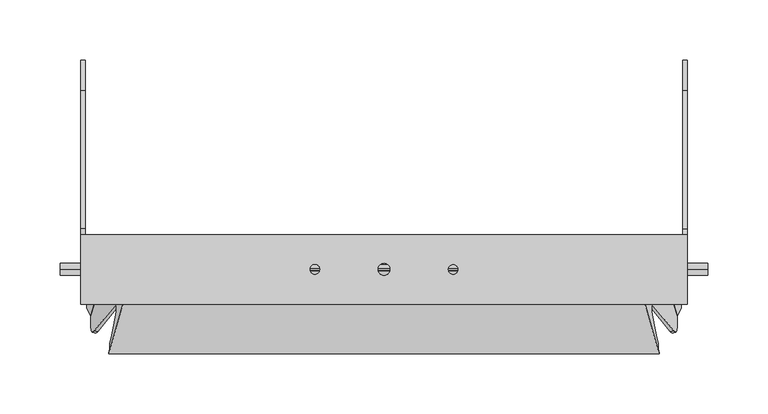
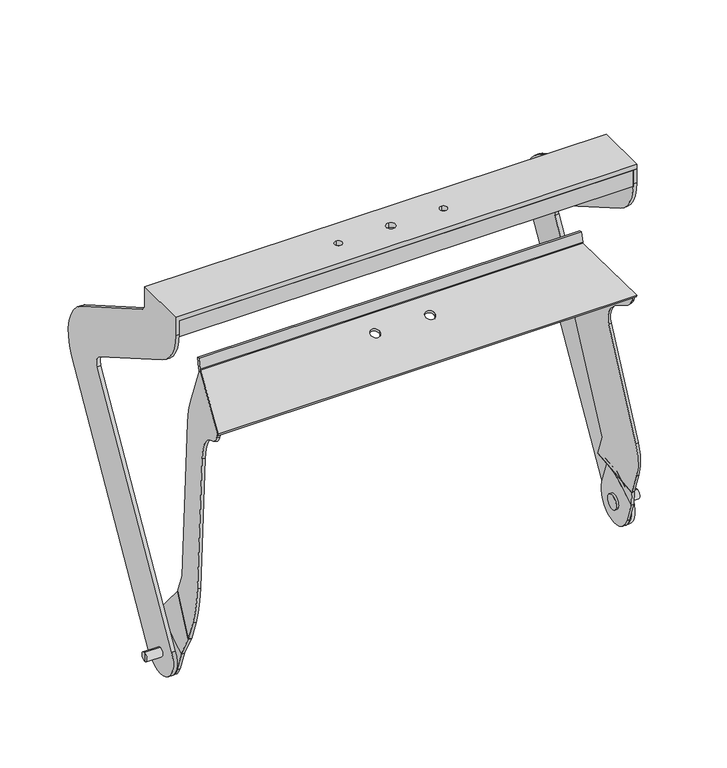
"""IFC4 building model written with IfcOpenShell, lengths in millimetres: proxy geometry, d&b M-Series M4 Flying Bracket : M4 Flying Bracket."""

from ifc_helpers import new_model, si_unit, point, frame, frame_2d, origin, place, context, project, spatial, polyline, circle_curve, trimmed, segment, composite_curve, outline, extrude, source, transform, mapped, element, save
from ifc_brep_helpers import plane_surface, cylinder_surface, revolved_surface, spline_surface, advanced_brep


def communication_devices_83826e61(model_context):
    return source(origin(), model_context, "Body", "SolidModel", [
        advanced_brep(
        [(-244.5052794, 11.9129866, 410.3598742), (-244.504496, -32.1564569, 385.2580032), (-247.4984362, -32.0897914, 385.1409638), (-247.4992196, 11.9796521, 410.2428348), (-228.0639078, 3.1454288, 429.4718054), (-230.9616853, 3.8750599, 429.7373693), (-243.9026376, -38.4932397, 404.9344067), (-241.0048601, -39.2228708, 404.6688427)],
        [
            (0, 1),
            (1, 2),
            (2, 3),
            (3, 0),
            (4, 5),
            (5, 6),
            (6, 7),
            (7, 4),
            (4, 0),
            (3, 5),
            (2, 6),
            (1, 7),
        ],
        [
            plane_surface(frame((-246.0018578, -10.0884024, 397.750419), z_axis=(0.0449434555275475, 0.4944399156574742, -0.8680491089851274), x_axis=(0.9989895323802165, -0.022244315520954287, 0.0390525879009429))),
            plane_surface(frame((-235.9832727, -17.6739055, 417.203106), z_axis=(-0.0449434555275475, -0.4944399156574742, 0.8680491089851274), x_axis=(0.9989895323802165, -0.022244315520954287, 0.0390525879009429))),
            spline_surface(1, 1, [[(-230.9616853, 3.8750599, 429.7373693), (-247.4992196, 11.9796521, 410.2428348)], [(-228.0639078, 3.1454288, 429.4718054), (-244.5052794, 11.9129866, 410.3598742)]], [2, 2], [2, 2], [0.0, 1.0], [0.0, 1.0]),
            spline_surface(1, 1, [[(-243.9026376, -38.4932397, 404.9344067), (-247.4984362, -32.0897914, 385.1409638)], [(-230.9616853, 3.8750599, 429.7373693), (-247.4992196, 11.9796521, 410.2428348)]], [2, 2], [2, 2], [0.0, 1.0], [0.0, 1.0]),
            spline_surface(1, 1, [[(-241.0048601, -39.2228708, 404.6688427), (-244.504496, -32.1564569, 385.2580032)], [(-243.9026376, -38.4932397, 404.9344067), (-247.4984362, -32.0897914, 385.1409638)]], [2, 2], [2, 2], [0.0, 1.0], [0.0, 1.0]),
            spline_surface(1, 1, [[(-228.0639078, 3.1454288, 429.4718054), (-244.5052794, 11.9129866, 410.3598742)], [(-241.0048601, -39.2228708, 404.6688427), (-244.504496, -32.1564569, 385.2580032)]], [2, 2], [2, 2], [0.0, 1.0], [0.0, 1.0]),
        ],
        [
            (0, [[1, 2, 3, 4]]),
            (1, [[5, 6, 7, 8]]),
            (2, [[-5, 9, -4, 10]]),
            (3, [[-6, -10, -3, 11]]),
            (4, [[-7, -11, -2, 12]]),
            (5, [[-8, -12, -1, -9]]),
        ],
    ),
        extrude(outline(composite_curve([segment(polyline([(104.5689878, 0.0), (180.1971911, 0.0), (180.1971911, -6.0833657)]), True, "CONTINUOUS"), segment(trimmed(circle_curve(frame_2d((162.814116, -6.0833656)), 17.383075), [point((180.1971911, -6.0833657))], [point((175.3152275, -18.1620042))], False, "CARTESIAN"), True, "CONTINUOUS"), segment(polyline([(175.3152275, -18.1620042), (167.0292158, -26.7378346)]), True, "CONTINUOUS"), segment(trimmed(circle_curve(frame_2d((188.6038419, -47.5833499)), 30.0), [point((167.0292158, -26.7378346))], [point((162.6230798, -62.5833499))], True, "CARTESIAN"), True, "CONTINUOUS"), segment(polyline([(162.6230798, -62.5833499), (229.5617624, -178.5245491)]), True, "CONTINUOUS"), segment(trimmed(circle_curve(frame_2d((160.2797301, -218.5245492)), 80.0), [point((229.5617624, -178.5245491))], [point((240.2797301, -218.5245492))], False, "CARTESIAN"), True, "CONTINUOUS"), segment(polyline([(240.2797301, -218.5245492), (240.2797302, -244.0319149), (190.2797301, -235.2155658), (190.2797301, -210.4860734), (111.2677176, -73.6332534)]), True, "CONTINUOUS"), segment(trimmed(circle_curve(frame_2d((154.5689878, -48.6332534)), 50.0), [point((111.2677176, -73.6332534))], [point((104.5689878, -48.6332534))], False, "CARTESIAN"), True, "CONTINUOUS"), segment(polyline([(104.5689878, -48.6332534), (104.5689878, 0.0)]), True, "CONTINUOUS")], self_intersect=False)), frame((-178.8158898, 95.4088114, 713.3641072), z_axis=(-0.9659258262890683, 0.2432103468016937, 0.08852132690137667), x_axis=(-0.25881904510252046, -0.907673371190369, -0.3303660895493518)), (0.0, 0.0, 1.0), 3.0),
        extrude(outline(composite_curve([segment(trimmed(circle_curve(frame_2d((0.0, -8.2)), 8.2), [point((0.0, -16.4))], [point((0.0, 0.0))], False, "CARTESIAN"), True, "CONTINUOUS"), segment(trimmed(circle_curve(frame_2d((0.0, -8.2)), 8.2), [point((0.0, 0.0))], [point((0.0, -16.4))], False, "CARTESIAN"), True, "CONTINUOUS")], self_intersect=False)), frame((-244.5053424, -7.7046987, 367.1919322), z_axis=(0.9999999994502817, -7.2124909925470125e-06, 3.236381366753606e-05), x_axis=(-3.287885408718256e-05, -0.34202014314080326, 0.9396926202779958)), (0.0, 0.0, 1.0), 2.4488042),
        extrude(outline(composite_curve([segment(polyline([(-23.5008597, 361.4729723), (-32.1604625, 385.2650355), (11.9175993, 410.3517759), (23.4837713, 378.5739795)]), True, "CONTINUOUS"), segment(trimmed(circle_curve(frame_2d((-0.0085442, 370.0234759)), 25.0), [point((23.4837713, 378.5739795))], [point((-23.5008597, 361.4729723))], False, "CARTESIAN"), True, "CONTINUOUS")], self_intersect=False)), frame((-247.5048601, 0.0, 0.0), z_axis=(1.0, 0.0, 0.0), x_axis=(0.0, 1.0, 0.0)), (0.0, 0.0, 1.0), 3.0),
        advanced_brep(
        [(244.5052794, 11.9129866, 410.3598742), (247.4992196, 11.9796521, 410.2428348), (247.4984362, -32.0897914, 385.1409638), (244.504496, -32.1564569, 385.2580032), (228.0639078, 3.1454288, 429.4718054), (241.0048601, -39.2228708, 404.6688427), (243.9026376, -38.4932397, 404.9344067), (230.9616853, 3.8750599, 429.7373693)],
        [
            (0, 1),
            (1, 2),
            (2, 3),
            (3, 0),
            (4, 5),
            (5, 6),
            (6, 7),
            (7, 4),
            (7, 1),
            (0, 4),
            (6, 2),
            (5, 3),
        ],
        [
            plane_surface(frame((246.0018578, -10.0884024, 397.750419), z_axis=(-0.04494345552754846, 0.49443991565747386, -0.8680491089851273), x_axis=(-1.544624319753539e-05, -0.8689274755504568, -0.49493943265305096))),
            plane_surface(frame((235.9832727, -17.6739055, 417.203106), z_axis=(0.04494345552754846, -0.49443991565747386, 0.8680491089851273), x_axis=(-1.544624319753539e-05, -0.8689274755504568, -0.49493943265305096))),
            spline_surface(1, 1, [[(228.0639078, 3.1454288, 429.4718054), (244.5052794, 11.9129866, 410.3598742)], [(230.9616853, 3.8750599, 429.7373693), (247.4992196, 11.9796521, 410.2428348)]], [2, 2], [2, 2], [0.0, 1.0], [0.0, 1.0]),
            spline_surface(1, 1, [[(230.9616853, 3.8750599, 429.7373693), (247.4992196, 11.9796521, 410.2428348)], [(243.9026376, -38.4932397, 404.9344067), (247.4984362, -32.0897914, 385.1409638)]], [2, 2], [2, 2], [0.0, 1.0], [0.0, 1.0]),
            spline_surface(1, 1, [[(243.9026376, -38.4932397, 404.9344067), (247.4984362, -32.0897914, 385.1409638)], [(241.0048601, -39.2228708, 404.6688427), (244.504496, -32.1564569, 385.2580032)]], [2, 2], [2, 2], [0.0, 1.0], [0.0, 1.0]),
            spline_surface(1, 1, [[(241.0048601, -39.2228708, 404.6688427), (244.504496, -32.1564569, 385.2580032)], [(228.0639078, 3.1454288, 429.4718054), (244.5052794, 11.9129866, 410.3598742)]], [2, 2], [2, 2], [0.0, 1.0], [0.0, 1.0]),
        ],
        [
            (0, [[1, 2, 3, 4]]),
            (1, [[5, 6, 7, 8]]),
            (2, [[-8, 9, -1, 10]]),
            (3, [[-7, 11, -2, -9]]),
            (4, [[-6, 12, -3, -11]]),
            (5, [[-5, -10, -4, -12]]),
        ],
    ),
        extrude(outline(composite_curve([segment(polyline([(-48.6332534, 0.0), (0.0, 0.0)]), True, "CONTINUOUS"), segment(trimmed(circle_curve(frame_2d((0.0, -50.0)), 50.0), [point((0.0, 0.0))], [point((25.0, -6.6987298))], False, "CARTESIAN"), True, "CONTINUOUS"), segment(polyline([(25.0, -6.6987298), (161.85282, -85.7107423), (186.5823124, -85.7107423), (195.3986615, -135.7107423), (169.8912959, -135.7107423)]), True, "CONTINUOUS"), segment(trimmed(circle_curve(frame_2d((169.8912958, -55.7107423)), 80.0), [point((169.8912959, -135.7107423))], [point((129.8912958, -124.9927746))], False, "CARTESIAN"), True, "CONTINUOUS"), segment(polyline([(129.8912958, -124.9927746), (13.9500965, -58.054092)]), True, "CONTINUOUS"), segment(trimmed(circle_curve(frame_2d((-1.0499035, -84.0348541)), 30.0), [point((13.9500965, -58.054092))], [point((-21.8954188, -62.460228))], True, "CARTESIAN"), True, "CONTINUOUS"), segment(polyline([(-21.8954188, -62.460228), (-30.4712491, -70.7462397)]), True, "CONTINUOUS"), segment(trimmed(circle_curve(frame_2d((-42.5498878, -58.2451282)), 17.383075), [point((-30.4712491, -70.7462397))], [point((-42.5498877, -75.6282033))], False, "CARTESIAN"), True, "CONTINUOUS"), segment(polyline([(-42.5498877, -75.6282033), (-48.6332533, -75.6282033), (-48.6332534, 0.0)]), True, "CONTINUOUS")], self_intersect=False)), frame((205.8803354, 17.127878, 633.1177503), z_axis=(0.9659258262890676, 0.2432103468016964, 0.08852132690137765), x_axis=(0.0, 0.3420201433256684, -0.9396926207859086)), (0.0, 0.0, 1.0), 3.0),
        extrude(outline(composite_curve([segment(trimmed(circle_curve(frame_2d((0.0, -8.2)), 8.2), [point((0.0, -16.4))], [point((0.0, 0.0))], False, "CARTESIAN"), True, "CONTINUOUS"), segment(trimmed(circle_curve(frame_2d((0.0, -8.2)), 8.2), [point((0.0, 0.0))], [point((0.0, -16.4))], False, "CARTESIAN"), True, "CONTINUOUS")], self_intersect=False)), frame((244.5053424, -7.7046987, 367.1919322), z_axis=(-0.9999999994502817, -7.212490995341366e-06, 3.2363813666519e-05), x_axis=(-3.287885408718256e-05, 0.34202014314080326, -0.9396926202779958)), (0.0, 0.0, 1.0), 2.4488042),
        extrude(outline(composite_curve([segment(polyline([(-23.5008597, 361.4729723), (-32.1604625, 385.2650355), (11.9175993, 410.3517759), (23.4837713, 378.5739795)]), True, "CONTINUOUS"), segment(trimmed(circle_curve(frame_2d((-0.0085442, 370.0234759)), 25.0), [point((23.4837713, 378.5739795))], [point((-23.5008597, 361.4729723))], False, "CARTESIAN"), True, "CONTINUOUS")], self_intersect=False)), frame((244.5048601, 0.0, 0.0), z_axis=(1.0, 0.0, 0.0), x_axis=(0.0, 1.0, 0.0)), (0.0, 0.0, 1.0), 3.0),
        advanced_brep(
        [(-209.2857399, -1.5823421, 681.2547476), (-228.8375847, -70.1502823, 656.2980584), (228.8375847, -70.1502823, 656.2980584), (209.2857399, -1.5823421, 681.2547476), (24.75, -22.2476505, 673.7331905), (35.25, -22.2476505, 673.7331905), (-24.75, -22.2476505, 673.7331905), (-35.25, -22.2476505, 673.7331905), (209.2857399, -0.5562817, 678.4356698), (228.8375847, -69.1242219, 653.4789805), (-228.8375847, -69.1242219, 653.4789805), (-209.2857399, -0.5562817, 678.4356698), (35.25, -21.2215901, 670.9141126), (24.75, -21.2215901, 670.9141126), (-35.25, -21.2215901, 670.9141126), (-24.75, -21.2215901, 670.9141126), (-209.2857399, 1.0439706, 693.2699218), (-209.2857399, 3.9983938, 692.7489773), (-209.2857399, 2.0148687, 681.4998476), (-209.2857399, -0.9395545, 682.0207921), (209.2857399, 1.0439706, 693.2699218), (209.2857399, -0.9395545, 682.0207921), (209.2857399, 2.0148687, 681.4998476), (209.2857399, 3.9983938, 692.7489773)],
        [
            (0, 1),
            (1, 2),
            (2, 3),
            (3, 0),
            (4, 5, circle_curve(frame((30.0, -22.2476505, 673.7331905), z_axis=(0.0, 0.34202014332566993, -0.9396926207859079), x_axis=(-1.0, 0.0, 0.0)), 5.25)),
            (5, 4, circle_curve(frame((30.0, -22.2476505, 673.7331905), z_axis=(0.0, 0.34202014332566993, -0.9396926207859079), x_axis=(-1.0, 0.0, 0.0)), 5.25)),
            (6, 7, circle_curve(frame((-30.0, -22.2476505, 673.7331905), z_axis=(0.0, 0.34202014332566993, -0.9396926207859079), x_axis=(1.0, 0.0, 0.0)), 5.25)),
            (7, 6, circle_curve(frame((-30.0, -22.2476505, 673.7331905), z_axis=(0.0, 0.34202014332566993, -0.9396926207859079), x_axis=(1.0, 0.0, 0.0)), 5.25)),
            (8, 9),
            (9, 10),
            (10, 11),
            (11, 8),
            (12, 13, circle_curve(frame((30.0, -21.2215901, 670.9141126), z_axis=(0.0, -0.34202014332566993, 0.9396926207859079), x_axis=(-1.0, 0.0, 0.0)), 5.25)),
            (13, 12, circle_curve(frame((30.0, -21.2215901, 670.9141126), z_axis=(0.0, -0.34202014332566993, 0.9396926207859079), x_axis=(-1.0, 0.0, 0.0)), 5.25)),
            (14, 15, circle_curve(frame((-30.0, -21.2215901, 670.9141126), z_axis=(0.0, -0.34202014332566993, 0.9396926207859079), x_axis=(1.0, 0.0, 0.0)), 5.25)),
            (15, 14, circle_curve(frame((-30.0, -21.2215901, 670.9141126), z_axis=(0.0, -0.34202014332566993, 0.9396926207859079), x_axis=(1.0, 0.0, 0.0)), 5.25)),
            (1, 10),
            (9, 2),
            (16, 17),
            (17, 18),
            (18, 11, circle_curve(frame((-209.2857399, -1.9243625, 682.1944403), z_axis=(-1.0, 0.0, 0.0), x_axis=(0.0, -0.9396926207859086, -0.3420201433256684)), 4.0000002)),
            (11, 0),
            (0, 19, circle_curve(frame((-209.2857399, -1.9243625, 682.1944403), z_axis=(1.0, 0.0, 0.0), x_axis=(0.0, -0.9396926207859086, -0.3420201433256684)), 1.0000002)),
            (19, 16),
            (20, 21),
            (21, 3, circle_curve(frame((209.2857399, -1.9243625, 682.1944403), z_axis=(-1.0, 0.0, 0.0), x_axis=(0.0, -0.9396926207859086, -0.3420201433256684)), 1.0000002)),
            (3, 8),
            (8, 22, circle_curve(frame((209.2857399, -1.9243625, 682.1944403), z_axis=(1.0, 0.0, 0.0), x_axis=(0.0, -0.9396926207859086, -0.3420201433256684)), 4.0000002)),
            (22, 23),
            (23, 20),
            (16, 20),
            (23, 17),
            (22, 18),
            (21, 19),
            (12, 5),
            (4, 13),
            (14, 7),
            (6, 15),
        ],
        [
            plane_surface(frame((-115.0144144, -1.5823421, 681.2547476), z_axis=(0.0, -0.34202014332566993, 0.9396926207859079), x_axis=(-1.0, 0.0, 0.0))),
            plane_surface(frame((-115.0144144, -0.5562817, 678.4356698), z_axis=(0.0, 0.34202014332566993, -0.9396926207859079), x_axis=(1.0, 0.0, 0.0))),
            plane_surface(frame((-228.8375847, -70.1502823, 656.2980584), z_axis=(0.0, -0.9396926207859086, -0.3420201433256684), x_axis=(0.0, 0.3420201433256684, -0.9396926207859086))),
            plane_surface(frame((-209.2857399, 3.9983938, 692.7489773), z_axis=(-1.0, 0.0, 0.0), x_axis=(0.0, 0.9848077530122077, -0.1736481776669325))),
            plane_surface(frame((209.2857399, 3.9983938, 692.7489773), z_axis=(1.0, 0.0, 0.0), x_axis=(0.0, -0.9848077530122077, 0.1736481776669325))),
            plane_surface(frame((-209.2857399, 1.0439706, 693.2699218), z_axis=(0.0, 0.1736481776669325, 0.9848077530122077), x_axis=(1.0, 0.0, 0.0))),
            plane_surface(frame((-209.2857399, 3.9983938, 692.7489773), z_axis=(0.0, 0.9848077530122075, -0.1736481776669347), x_axis=(1.0, 0.0, 0.0))),
            cylinder_surface(frame((209.2857399, -1.9243625, 682.1944403), z_axis=(-1.0, 0.0, 0.0), x_axis=(0.0, -0.9396926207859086, -0.3420201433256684)), 4.0000002),
            revolved_surface(polyline([(209.2857399, -2.8640553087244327, 681.8524200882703), (-209.2857399, -2.8640553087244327, 681.8524200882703)]), (209.2857399, -1.9243625, 682.1944403), (1.0, 0.0, 0.0)),
            plane_surface(frame((-209.2857399, -0.9395545, 682.0207921), z_axis=(0.0, -0.9848077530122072, 0.1736481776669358), x_axis=(1.0, 0.0, 0.0))),
            plane_surface(frame((-209.2857399, -1.5823421, 681.2547476), z_axis=(-0.96592582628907, 0.24321034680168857, 0.08852132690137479), x_axis=(0.0, 0.3420201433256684, -0.9396926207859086))),
            plane_surface(frame((228.8375847, -70.1502823, 656.2980584), z_axis=(0.9659258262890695, 0.24321034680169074, 0.08852132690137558), x_axis=(0.0, 0.3420201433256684, -0.9396926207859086))),
            revolved_surface(polyline([(24.75, -22.24765053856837, 673.7331904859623), (24.75, -21.2215901, 670.9141126)]), (30.0, -21.2215901, 670.9141126), (0.0, -0.34202014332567, 0.9396926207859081)),
            revolved_surface(polyline([(-24.75, -22.24765053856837, 673.7331904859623), (-24.75, -21.2215901, 670.9141126)]), (-30.0, -21.2215901, 670.9141126), (0.0, -0.34202014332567, 0.9396926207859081)),
        ],
        [
            (0, [[1, 2, 3, 4], [5, 6], [7, 8]]),
            (1, [[9, 10, 11, 12], [13, 14], [15, 16]]),
            (2, [[-2, 17, -10, 18]]),
            (3, [[19, 20, 21, 22, 23, 24]]),
            (4, [[25, 26, 27, 28, 29, 30]]),
            (5, [[-19, 31, -30, 32]]),
            (6, [[-20, -32, -29, 33]]),
            (7, [[-21, -33, -28, -12]]),
            (8, [[-23, -4, -26, 34]]),
            (9, [[-24, -34, -25, -31]]),
            (10, [[-1, -22, -11, -17]]),
            (11, [[-3, -18, -9, -27]]),
            (12, [[35, -5, 36, -13]]),
            (12, [[-35, -14, -36, -6]]),
            (13, [[37, -7, 38, -15]]),
            (13, [[-37, -16, -38, -8]]),
        ],
    ),
        advanced_brep(
        [(-252.4951399, 0.0, 375.000001), (-252.4951399, 0.0, 365.000001), (-269.5, 0.0, 365.000001), (-269.5, 0.0, 375.000001), (-252.4951399, 0.0, 370.000001), (-269.5, 0.0, 370.000001)],
        [
            (0, 1, circle_curve(frame((-252.4951399, 0.0, 370.000001), z_axis=(-1.0, 0.0, 0.0), x_axis=(0.0, 0.0, -1.0)), 5.0)),
            (1, 2),
            (2, 3, circle_curve(frame((-269.5, 0.0, 370.000001), z_axis=(1.0, 0.0, 0.0), x_axis=(0.0, 0.0, -1.0)), 5.0)),
            (3, 0),
            (1, 0, circle_curve(frame((-252.4951399, 0.0, 370.000001), z_axis=(-1.0, 0.0, 0.0), x_axis=(0.0, 0.0, -1.0)), 5.0)),
            (3, 2, circle_curve(frame((-269.5, 0.0, 370.000001), z_axis=(1.0, 0.0, 0.0), x_axis=(0.0, 0.0, -1.0)), 5.0)),
            (4, 1),
            (0, 4),
            (2, 5),
            (5, 3),
        ],
        [
            cylinder_surface(frame((-294.5, 0.0, 370.000001), z_axis=(1.0, 0.0, 0.0), x_axis=(0.0, 0.0, -1.0)), 5.0),
            plane_surface(frame((-252.4951399, 0.0, 370.000001), z_axis=(1.0, 0.0, 0.0), x_axis=(0.0, 0.0, -1.0))),
            plane_surface(frame((-269.5, 0.0, 370.000001), z_axis=(-1.0, 0.0, 0.0), x_axis=(0.0, 0.0, -1.0))),
        ],
        [
            (0, [[1, 2, 3, 4]]),
            (0, [[5, -4, 6, -2]]),
            (1, [[7, -1, 8]]),
            (1, [[-8, -5, -7]]),
            (2, [[-3, 9, 10]]),
            (2, [[-6, -10, -9]]),
        ],
    ),
        advanced_brep(
        [(269.5, 0.0, 370.000001), (269.5, 0.0, 365.000001), (269.5, 0.0, 375.000001), (252.4951399, 0.0, 375.000001), (252.4951399, 0.0, 365.000001), (252.4951399, 0.0, 370.000001)],
        [
            (0, 1),
            (1, 2, circle_curve(frame((269.5, 0.0, 370.000001), z_axis=(1.0, 0.0, 0.0), x_axis=(0.0, 0.0, -1.0)), 5.0)),
            (2, 0),
            (2, 1, circle_curve(frame((269.5, 0.0, 370.000001), z_axis=(1.0, 0.0, 0.0), x_axis=(0.0, 0.0, -1.0)), 5.0)),
            (3, 4, circle_curve(frame((252.4951399, 0.0, 370.000001), z_axis=(-1.0, 0.0, 0.0), x_axis=(0.0, 0.0, -1.0)), 5.0)),
            (4, 5),
            (5, 3),
            (4, 3, circle_curve(frame((252.4951399, 0.0, 370.000001), z_axis=(-1.0, 0.0, 0.0), x_axis=(0.0, 0.0, -1.0)), 5.0)),
            (1, 4),
            (3, 2),
        ],
        [
            plane_surface(frame((269.5, 0.0, 370.000001), z_axis=(1.0, 0.0, 0.0), x_axis=(0.0, 0.0, -1.0))),
            plane_surface(frame((252.4951399, 0.0, 370.000001), z_axis=(-1.0, 0.0, 0.0), x_axis=(0.0, 0.0, -1.0))),
            cylinder_surface(frame((-294.5, 0.0, 370.000001), z_axis=(1.0, 0.0, 0.0), x_axis=(0.0, 0.0, -1.0)), 5.0),
        ],
        [
            (0, [[1, 2, 3]]),
            (0, [[-3, 4, -1]]),
            (1, [[5, 6, 7]]),
            (1, [[8, -7, -6]]),
            (2, [[-2, 9, -5, 10]]),
            (2, [[-4, -10, -8, -9]]),
        ],
    ),
        advanced_brep(
        [(-248.4951399, 21.4504736, 357.6155643), (-248.4951399, 167.5626099, 610.6892079), (-248.4951399, 149.2613397, 678.9904781), (-248.4951399, 34.0, 745.5366436), (-248.4951399, 29.0, 754.1968976), (-248.4951399, 29.0, 769.0421971), (-248.4951399, -29.0, 769.0421971), (-248.4951399, -29.0, 753.0421971), (-248.4951399, -4.0, 709.7409269), (-248.4951399, 115.5929847, 640.693885), (-248.4951399, 119.2534368, 627.0339741), (-248.4951399, -21.8497087, 382.6137924), (-252.4951399, 21.4504736, 357.6155643), (-252.4951399, 167.5626099, 610.6892079), (-252.4951399, 119.2534368, 627.0339741), (-252.4951399, -21.8497087, 382.6137924), (252.5048601, 29.0, 774.0421971), (-252.4951399, 29.0, 774.0421971), (-252.4951399, -29.0, 774.0421971), (252.5048601, -29.0, 774.0421971), (-57.5, -4.0277425, 774.0421971), (-57.5, 4.0277425, 774.0421971), (0.0, -5.0, 774.0421971), (0.0, 5.0, 774.0421971), (57.5, -4.0, 774.0421971), (57.5, 4.0, 774.0421971), (252.5048601, 29.0, 769.0421971), (252.5048601, -29.0, 769.0421971), (-57.5, -4.0277425, 769.0421971), (-57.5, 4.0277425, 769.0421971), (0.0, -5.0, 769.0421971), (0.0, 5.0, 769.0421971), (57.5, -4.0, 769.0421971), (57.5, 4.0, 769.0421971), (-252.4951399, 29.0, 754.1968976), (-252.4951399, 34.0, 745.5366436), (-252.4951399, 149.2613397, 678.9904781), (-252.4951399, 115.5929847, 640.693885), (-252.4951399, -4.0, 709.7409269), (-252.4951399, -29.0, 753.0421971)],
        [
            (0, 1),
            (1, 2, circle_curve(frame((-248.4951399, 124.2613397, 635.6892079), z_axis=(1.0, 0.0, 0.0), x_axis=(0.0, 1.0, 0.0)), 50.0)),
            (2, 3),
            (3, 4, circle_curve(frame((-248.4951399, 39.0, 754.1968976), z_axis=(-1.0, 0.0, 0.0), x_axis=(0.0, 1.0, 0.0)), 10.0)),
            (4, 5),
            (5, 6),
            (6, 7),
            (7, 8, circle_curve(frame((-248.4951399, 21.0, 753.0421971), z_axis=(1.0, 0.0, 0.0), x_axis=(0.0, 1.0, 0.0)), 50.0)),
            (8, 9),
            (9, 10, circle_curve(frame((-248.4951399, 110.5929847, 632.0336309), z_axis=(-1.0, 0.0, 0.0), x_axis=(0.0, 1.0, 0.0)), 10.0)),
            (10, 11),
            (11, 0, circle_curve(frame((-248.4951399, -0.1993699, 370.1151072), z_axis=(1.0, 0.0, 0.0), x_axis=(0.0, 1.0, 0.0)), 24.9990859)),
            (0, 12),
            (12, 13),
            (13, 1),
            (10, 14),
            (14, 15),
            (15, 11),
            (16, 17),
            (17, 18),
            (18, 19),
            (19, 16),
            (20, 21, circle_curve(frame((-57.5, 0.0, 774.0421971), z_axis=(0.0, 0.0, -1.0), x_axis=(0.0, 1.0, 0.0)), 4.0277425)),
            (21, 20, circle_curve(frame((-57.5, 0.0, 774.0421971), z_axis=(0.0, 0.0, -1.0), x_axis=(0.0, 1.0, 0.0)), 4.0277425)),
            (22, 23, circle_curve(frame((0.0, 0.0, 774.0421971), z_axis=(0.0, 0.0, -1.0), x_axis=(0.0, 1.0, 0.0)), 5.0)),
            (23, 22, circle_curve(frame((0.0, 0.0, 774.0421971), z_axis=(0.0, 0.0, -1.0), x_axis=(0.0, 1.0, 0.0)), 5.0)),
            (24, 25, circle_curve(frame((57.5, 0.0, 774.0421971), z_axis=(0.0, 0.0, -1.0), x_axis=(0.0, 1.0, 0.0)), 4.0)),
            (25, 24, circle_curve(frame((57.5, 0.0, 774.0421971), z_axis=(0.0, 0.0, -1.0), x_axis=(0.0, 1.0, 0.0)), 4.0)),
            (26, 27),
            (27, 6),
            (5, 26),
            (28, 29, circle_curve(frame((-57.5, 0.0, 769.0421971), z_axis=(0.0, 0.0, 1.0), x_axis=(0.0, 1.0, 0.0)), 4.0277425)),
            (29, 28, circle_curve(frame((-57.5, 0.0, 769.0421971), z_axis=(0.0, 0.0, 1.0), x_axis=(0.0, 1.0, 0.0)), 4.0277425)),
            (30, 31, circle_curve(frame((0.0, 0.0, 769.0421971), z_axis=(0.0, 0.0, 1.0), x_axis=(0.0, 1.0, 0.0)), 5.0)),
            (31, 30, circle_curve(frame((0.0, 0.0, 769.0421971), z_axis=(0.0, 0.0, 1.0), x_axis=(0.0, 1.0, 0.0)), 5.0)),
            (32, 33, circle_curve(frame((57.5, 0.0, 769.0421971), z_axis=(0.0, 0.0, 1.0), x_axis=(0.0, 1.0, 0.0)), 4.0)),
            (33, 32, circle_curve(frame((57.5, 0.0, 769.0421971), z_axis=(0.0, 0.0, 1.0), x_axis=(0.0, 1.0, 0.0)), 4.0)),
            (16, 26),
            (4, 34),
            (34, 17),
            (34, 35, circle_curve(frame((-252.4951399, 39.0, 754.1968976), z_axis=(1.0, 0.0, 0.0), x_axis=(0.0, 1.0, 0.0)), 10.0)),
            (35, 36),
            (36, 13, circle_curve(frame((-252.4951399, 124.2613397, 635.6892079), z_axis=(-1.0, 0.0, 0.0), x_axis=(0.0, 1.0, 0.0)), 50.0)),
            (12, 15, circle_curve(frame((-252.4951399, -0.1993699, 370.1151072), z_axis=(-1.0, 0.0, 0.0), x_axis=(0.0, 1.0, 0.0)), 24.9990859)),
            (14, 37, circle_curve(frame((-252.4951399, 110.5929847, 632.0336309), z_axis=(1.0, 0.0, 0.0), x_axis=(0.0, 1.0, 0.0)), 10.0)),
            (37, 38),
            (38, 39, circle_curve(frame((-252.4951399, 21.0, 753.0421971), z_axis=(-1.0, 0.0, 0.0), x_axis=(0.0, 1.0, 0.0)), 50.0)),
            (39, 18),
            (39, 7),
            (27, 19),
            (20, 28),
            (29, 21),
            (22, 30),
            (31, 23),
            (24, 32),
            (33, 25),
            (36, 2),
            (9, 37),
            (8, 38),
            (3, 35),
        ],
        [
            plane_surface(frame((-248.4951399, 24.799716, 370.1151072), z_axis=(1.0, 0.0, 0.0), x_axis=(0.0, 0.0, 1.0))),
            plane_surface(frame((-252.4951399, 167.5626099, 610.6892079), z_axis=(0.0, 0.866025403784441, -0.49999999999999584), x_axis=(1.0, 0.0, 0.0))),
            plane_surface(frame((-252.4951399, -21.8497087, 382.6137924), z_axis=(0.0, -0.866045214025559, 0.49996568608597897), x_axis=(1.0, 0.0, 0.0))),
            plane_surface(frame((-87.0082463, 29.0, 774.0421971), z_axis=(0.0, 0.0, 1.0), x_axis=(-1.0, 0.0, 0.0))),
            plane_surface(frame((-87.0082463, 29.0, 769.0421971), z_axis=(0.0, 0.0, -1.0), x_axis=(1.0, 0.0, 0.0))),
            plane_surface(frame((252.5048601, 29.0, 774.0421971), z_axis=(0.0, 1.0, 0.0), x_axis=(0.0, 0.0, -1.0))),
            plane_surface(frame((-252.4951399, 29.0, 774.0421971), z_axis=(-1.0, 0.0, 0.0), x_axis=(0.0, 0.0, -1.0))),
            plane_surface(frame((-252.4951399, -29.0, 774.0421971), z_axis=(0.0, -1.0, 0.0), x_axis=(0.0, 0.0, -1.0))),
            plane_surface(frame((252.5048601, -29.0, 774.0421971), z_axis=(1.0, 0.0, 0.0), x_axis=(0.0, 0.0, -1.0))),
            revolved_surface(polyline([(-57.5, 4.0277425, 769.0421971), (-57.5, 4.0277425, 774.0421971)]), (-57.5, 0.0, 774.0421971), (0.0, 0.0, -1.0)),
            revolved_surface(polyline([(0.0, 5.0, 769.0421971), (0.0, 5.0, 774.0421971)]), (0.0, 0.0, 774.0421971), (0.0, 0.0, -1.0)),
            revolved_surface(polyline([(57.5, 4.0, 769.0421971), (57.5, 4.0, 774.0421971)]), (57.5, 0.0, 774.0421971), (0.0, 0.0, -1.0)),
            cylinder_surface(frame((-248.4951399, 124.2613397, 635.6892079), z_axis=(-1.0, 0.0, 0.0), x_axis=(0.0, 1.0, 0.0)), 50.0),
            revolved_surface(polyline([(-248.4951399, 120.5929847, 632.0336309), (-252.4951399, 120.5929847, 632.0336309)]), (-248.4951399, 110.5929847, 632.0336309), (1.0, 0.0, 0.0)),
            plane_surface(frame((-252.4951399, 115.5929847, 640.693885), z_axis=(0.0, -0.4999999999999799, -0.8660254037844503), x_axis=(1.0, 0.0, 0.0))),
            cylinder_surface(frame((-248.4951399, 21.0, 753.0421971), z_axis=(-1.0, 0.0, 0.0), x_axis=(0.0, 1.0, 0.0)), 50.0),
            revolved_surface(polyline([(-248.4951399, 49.0, 754.1968976), (-252.4951399, 49.0, 754.1968976)]), (-248.4951399, 39.0, 754.1968976), (1.0, 0.0, 0.0)),
            plane_surface(frame((-252.4951399, 34.0, 745.5366436), z_axis=(0.0, 0.4999999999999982, 0.8660254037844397), x_axis=(1.0, 0.0, 0.0))),
            cylinder_surface(frame((-248.4951399, -0.1993699, 370.1151072), z_axis=(-1.0, 0.0, 0.0), x_axis=(0.0, 1.0, 0.0)), 24.9990859),
        ],
        [
            (0, [[1, 2, 3, 4, 5, 6, 7, 8, 9, 10, 11, 12]]),
            (1, [[-1, 13, 14, 15]]),
            (2, [[-11, 16, 17, 18]]),
            (3, [[19, 20, 21, 22], [23, 24], [25, 26], [27, 28]]),
            (4, [[29, 30, -6, 31], [32, 33], [34, 35], [36, 37]]),
            (5, [[-19, 38, -31, -5, 39, 40]]),
            (6, [[-20, -40, 41, 42, 43, -14, 44, -17, 45, 46, 47, 48]]),
            (7, [[-21, -48, 49, -7, -30, 50]]),
            (8, [[-22, -50, -29, -38]]),
            (9, [[-23, 51, -33, 52]]),
            (9, [[-24, -52, -32, -51]]),
            (10, [[-25, 53, -35, 54]]),
            (10, [[-26, -54, -34, -53]]),
            (11, [[-27, 55, -37, 56]]),
            (11, [[-28, -56, -36, -55]]),
            (12, [[-2, -15, -43, 57]]),
            (13, [[-10, 58, -45, -16]]),
            (14, [[-9, 59, -46, -58]]),
            (15, [[-8, -49, -47, -59]]),
            (16, [[-4, 60, -41, -39]]),
            (17, [[-3, -57, -42, -60]]),
            (18, [[-12, -18, -44, -13]]),
        ],
    ),
        extrude(outline(composite_curve([segment(trimmed(circle_curve(frame_2d((-0.1993569, 370.1154171)), 24.999285), [point((21.4505375, 357.6155643))], [point((-21.8496092, 382.6146502))], False, "CARTESIAN"), True, "CONTINUOUS"), segment(polyline([(-21.8496092, 382.6146502), (119.2534555, 627.0339608)]), True, "CONTINUOUS"), segment(trimmed(circle_curve(frame_2d((110.5929927, 632.0336212)), 10.0000111), [point((119.2534555, 627.0339608))], [point((115.5929931, 640.6938878))], True, "CARTESIAN"), True, "CONTINUOUS"), segment(polyline([(115.5929931, 640.6938878), (-4.0, 709.7409269)]), True, "CONTINUOUS"), segment(trimmed(circle_curve(frame_2d((21.0, 753.0421971)), 50.0), [point((-4.0, 709.7409269))], [point((-29.0, 753.0421971))], False, "CARTESIAN"), True, "CONTINUOUS"), segment(polyline([(-29.0, 753.0421971), (-29.0, 769.0421971), (29.0, 769.0421971), (29.0, 754.1968976)]), True, "CONTINUOUS"), segment(trimmed(circle_curve(frame_2d((39.0, 754.1968976)), 10.0), [point((29.0, 754.1968976))], [point((34.0, 745.5366436))], True, "CARTESIAN"), True, "CONTINUOUS"), segment(polyline([(34.0, 745.5366436), (149.2613382, 678.9904776)]), True, "CONTINUOUS"), segment(trimmed(circle_curve(frame_2d((124.2613382, 635.6892096)), 49.999998), [point((149.2613382, 678.9904776))], [point((167.5626065, 610.6892103))], False, "CARTESIAN"), True, "CONTINUOUS"), segment(polyline([(167.5626065, 610.6892103), (21.4505375, 357.6155643)]), True, "CONTINUOUS")], self_intersect=False)), frame((248.5048601, 0.0, 0.0), z_axis=(1.0, 0.0, 0.0), x_axis=(0.0, 1.0, 0.0)), (0.0, 0.0, 1.0), 4.0),
        extrude(outline(polyline([(248.5048601, 29.0), (248.5048601, 24.9947219), (-248.4951399, 24.9947219), (-248.4951399, 29.0), (248.5048601, 29.0)])), frame((0.0, 0.0, 730.0421971), z_axis=(0.0, 0.0, 1.0), x_axis=(1.0, 0.0, 0.0)), (0.0, 0.0, 1.0), 39.0),
        extrude(outline(polyline([(248.5048601, -24.9947219), (248.5048601, -29.0), (-248.4951399, -29.0), (-248.4951399, -24.9947219), (248.5048601, -24.9947219)])), frame((0.0, 0.0, 750.0421971), z_axis=(0.0, 0.0, 1.0), x_axis=(1.0, 0.0, 0.0)), (0.0, 0.0, 1.0), 19.0),
    ])


if __name__ == "__main__":
    model = new_model("IFC4")
    model_context = context("Model", 3, world=origin())
    ifc_project = project(units=[si_unit("LENGTHUNIT", "METRE", prefix="MILLI")], contexts=[model_context])
    site = spatial("IfcSite", under=ifc_project)
    building = spatial("IfcBuilding", under=site)
    placement = place(None, origin())
    communication_devices_shape = communication_devices_83826e61(model_context)
    element("IfcBuildingElementProxy", 1, Name="d&b M-Series M4 Flying Bracket : M4 Flying Bracket", ObjectType="d&b M-Series M4 Flying Bracket : M4 Flying Bracket", at=placement, inside=building, context=model_context, shape_type="MappedRepresentation", body=[
        mapped(communication_devices_shape, transform((0.0, 0.0, 0.0), x_axis=(1.0, 0.0, 0.0), y_axis=(0.0, 1.0, 0.0), z_axis=(0.0, 0.0, 1.0))),
    ])
    save(model, "model.ifc")
